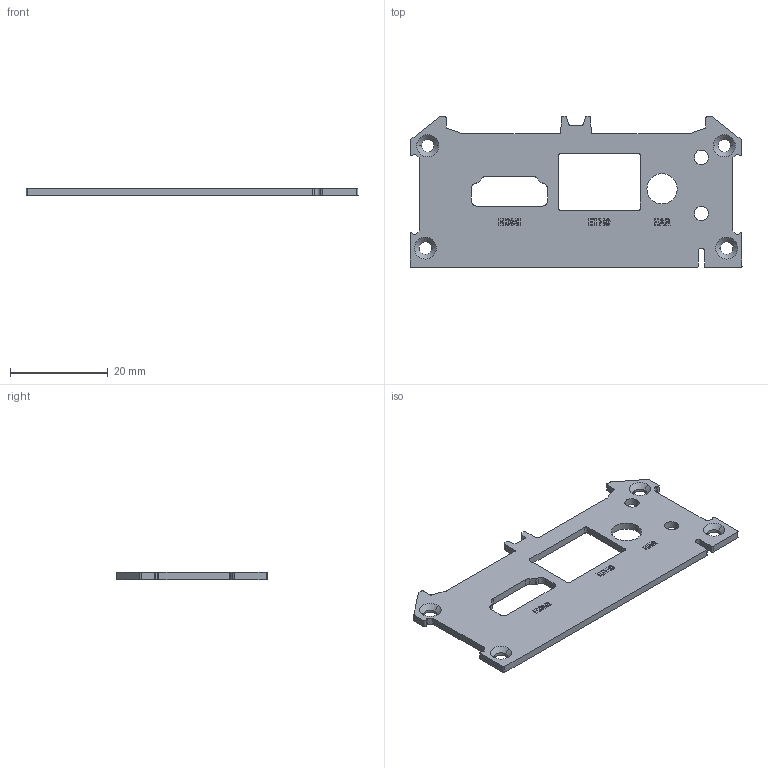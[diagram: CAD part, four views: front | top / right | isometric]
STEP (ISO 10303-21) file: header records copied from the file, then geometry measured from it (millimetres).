
FILE_DESCRIPTION (( 'STEP AP214' ), '1' );
FILE_NAME ('ヶ醱啣.STEP', '2024-06-03T02:37:54', ( '' ), ( '' ), 'SwSTEP 2.0', 'SolidWorks 2021', '' );
FILE_SCHEMA (( 'AUTOMOTIVE_DESIGN' ));
Length unit declared in the file: millimetre
Products named in the file (1): ヶ醱啣
Bounding box: 68 x 31 x 1.5 mm (x, y, z)
Volume: 2212.8 mm3; surface area: 3540.5 mm2
Topology: 1 solids, 1 shells, 266 faces, 739 edges, 490 vertices
Faces by surface type: plane 175, cylinder 61, bspline 22, cone 8
Entity records: 11239 total; most frequent: CARTESIAN_POINT 2830, ORIENTED_EDGE 1478, DIRECTION 1315, EDGE_CURVE 739, LINE 565, VECTOR 565, VERTEX_POINT 490, AXIS2_PLACEMENT_3D 375
